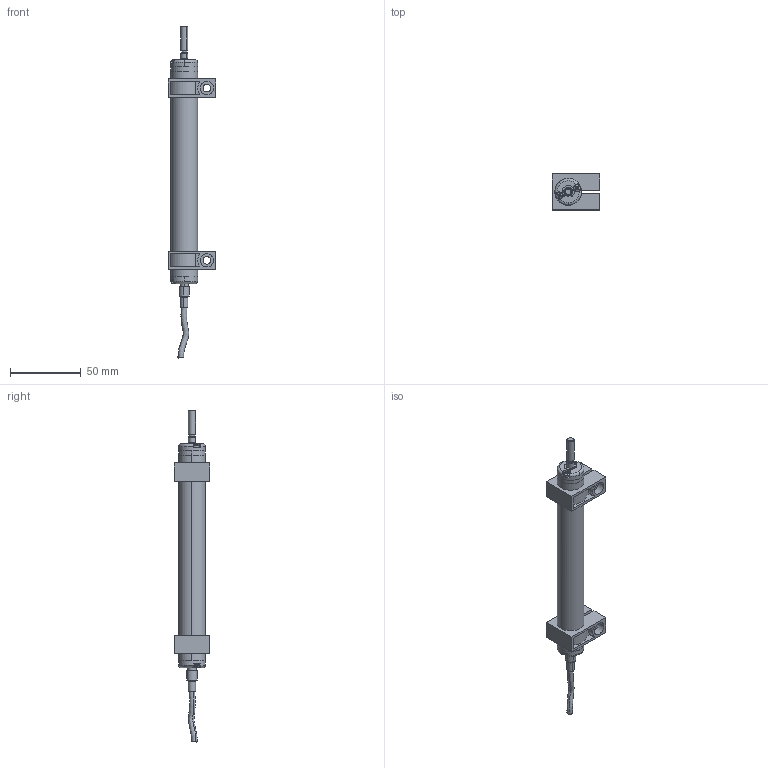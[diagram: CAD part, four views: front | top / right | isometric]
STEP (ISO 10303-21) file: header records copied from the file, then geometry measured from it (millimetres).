
FILE_DESCRIPTION (( 'STEP AP203' ), '1' );
FILE_NAME ('PZ34-S-100.STEP', '2016-05-16T17:00:58', ( '' ), ( '' ), 'SwSTEP 2.0', 'SolidWorks 2015', '' );
FILE_SCHEMA (( 'CONFIG_CONTROL_DESIGN' ));
Length unit declared in the file: millimetre
Products named in the file (11): TES107X; STA075X; CUS263X; PZ34-S-100; TES110X; ALB138X; Termor-PME-V2X; PMEV2 cavoX; MIM815X_ISO 7045 - M2.5 x 8 - Z --- 8S; MIM001X_Lock washer DIN 6799 - 3.2; TES102X
Assembly tree (14 placements, depth 2):
  PZ34-S-100
    TES107X
    CUS263X
    TES110X
    ALB138X
    Termor-PME-V2X
    PMEV2 cavoX
    MIM815X_ISO 7045 - M2.5 x 8 - Z --- 8S  x4
    MIM001X_Lock washer DIN 6799 - 3.2
    TES102X
    STA075X  x2
Bounding box: 34 x 25.5 x 235.2 mm (x, y, z)
Volume: 57894.1 mm3; surface area: 28560.7 mm2
Topology: 14 solids, 14 shells, 985 faces, 2556 edges, 1610 vertices
Faces by surface type: cone 442, cylinder 330, plane 175, torus 26, sphere 10, bspline 2
Entity records: 13769 total; most frequent: CARTESIAN_POINT 2733, DIRECTION 2280, ORIENTED_EDGE 1940, EDGE_CURVE 970, AXIS2_PLACEMENT_3D 928, VERTEX_POINT 619, CIRCLE 528, EDGE_LOOP 427
